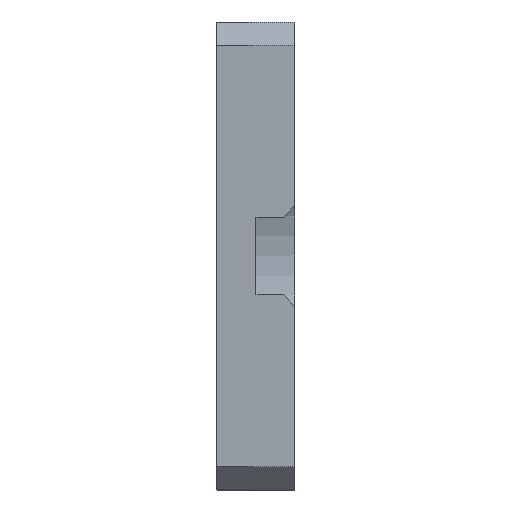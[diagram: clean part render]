
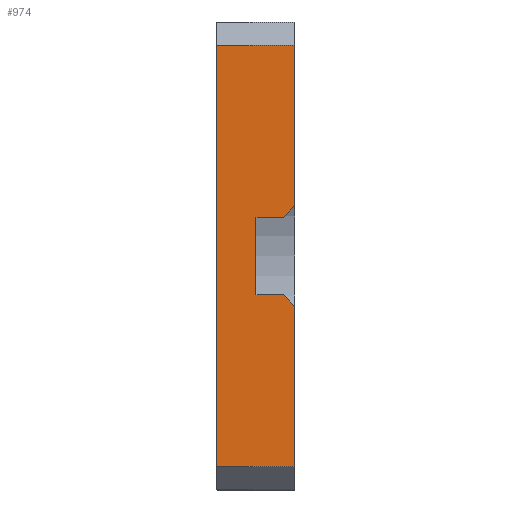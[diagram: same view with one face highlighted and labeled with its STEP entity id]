
A CAD part, left-side view. The second image highlights one B-rep face of the part: STEP entity #974.
In plain terms, the highlighted planar face has unit normal (-1, 0, 0).
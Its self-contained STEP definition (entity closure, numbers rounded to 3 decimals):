
#7 = DIRECTION ( 'NONE',  ( 0., 0.707, 0.707 ) ) ;
#11 = LINE ( 'NONE', #1109, #565 ) ;
#27 = DIRECTION ( 'NONE',  ( 0., 0., 1. ) ) ;
#49 = CARTESIAN_POINT ( 'NONE',  ( -115., 3., 9.9 ) ) ;
#69 = AXIS2_PLACEMENT_3D ( 'NONE', #373, #1762, #1053 ) ;
#75 = VERTEX_POINT ( 'NONE', #467 ) ;
#79 = FACE_OUTER_BOUND ( 'NONE', #1263, .T. ) ;
#82 = CARTESIAN_POINT ( 'NONE',  ( -115., 10., 60. ) ) ;
#88 = LINE ( 'NONE', #1783, #1549 ) ;
#109 = DIRECTION ( 'NONE',  ( 0., -1., 0. ) ) ;
#144 = CARTESIAN_POINT ( 'NONE',  ( -115., 20., 54. ) ) ;
#151 = VECTOR ( 'NONE', #594, 1000. ) ;
#160 = CARTESIAN_POINT ( 'NONE',  ( -115., 20., -9.9 ) ) ;
#161 = ORIENTED_EDGE ( 'NONE', *, *, #706, .T. ) ;
#168 = CARTESIAN_POINT ( 'NONE',  ( -115., 20., -54. ) ) ;
#184 = DIRECTION ( 'NONE',  ( 0., -0.707, 0.707 ) ) ;
#250 = ORIENTED_EDGE ( 'NONE', *, *, #871, .T. ) ;
#270 = CARTESIAN_POINT ( 'NONE',  ( -115., 0., -12.9 ) ) ;
#279 = DIRECTION ( 'NONE',  ( 0., 0., 1. ) ) ;
#290 = DIRECTION ( 'NONE',  ( 0., 1., 0. ) ) ;
#318 = LINE ( 'NONE', #465, #1359 ) ;
#341 = VERTEX_POINT ( 'NONE', #270 ) ;
#346 = DIRECTION ( 'NONE',  ( 0., 0., 1. ) ) ;
#354 = VERTEX_POINT ( 'NONE', #847 ) ;
#373 = CARTESIAN_POINT ( 'NONE',  ( -115., 20., 60. ) ) ;
#397 = ORIENTED_EDGE ( 'NONE', *, *, #551, .F. ) ;
#403 = EDGE_CURVE ( 'NONE', #844, #1302, #318, .T. ) ;
#425 = VERTEX_POINT ( 'NONE', #1574 ) ;
#433 = EDGE_CURVE ( 'NONE', #425, #719, #723, .T. ) ;
#465 = CARTESIAN_POINT ( 'NONE',  ( -115., 3., 9.9 ) ) ;
#467 = CARTESIAN_POINT ( 'NONE',  ( -115., 10., 9.9 ) ) ;
#477 = VERTEX_POINT ( 'NONE', #1226 ) ;
#482 = ORIENTED_EDGE ( 'NONE', *, *, #914, .T. ) ;
#551 = EDGE_CURVE ( 'NONE', #75, #354, #1489, .T. ) ;
#565 = VECTOR ( 'NONE', #279, 1000. ) ;
#571 = LINE ( 'NONE', #1273, #894 ) ;
#575 = LINE ( 'NONE', #160, #1331 ) ;
#594 = DIRECTION ( 'NONE',  ( 0., -1., 0. ) ) ;
#606 = CARTESIAN_POINT ( 'NONE',  ( -115., 3., -9.9 ) ) ;
#620 = VECTOR ( 'NONE', #346, 1000. ) ;
#647 = CARTESIAN_POINT ( 'NONE',  ( -115., 0., 12.9 ) ) ;
#705 = VECTOR ( 'NONE', #27, 1000. ) ;
#706 = EDGE_CURVE ( 'NONE', #1302, #893, #11, .T. ) ;
#719 = VERTEX_POINT ( 'NONE', #144 ) ;
#723 = LINE ( 'NONE', #1293, #705 ) ;
#730 = ORIENTED_EDGE ( 'NONE', *, *, #433, .F. ) ;
#782 = DIRECTION ( 'NONE',  ( 0., 0., -1. ) ) ;
#789 = EDGE_CURVE ( 'NONE', #1205, #354, #575, .T. ) ;
#798 = VECTOR ( 'NONE', #290, 1000. ) ;
#803 = ORIENTED_EDGE ( 'NONE', *, *, #789, .T. ) ;
#844 = VERTEX_POINT ( 'NONE', #49 ) ;
#847 = CARTESIAN_POINT ( 'NONE',  ( -115., 10., -9.9 ) ) ;
#871 = EDGE_CURVE ( 'NONE', #425, #477, #1438, .T. ) ;
#885 = DIRECTION ( 'NONE',  ( 0., 1., 0. ) ) ;
#893 = VERTEX_POINT ( 'NONE', #1462 ) ;
#894 = VECTOR ( 'NONE', #7, 1000. ) ;
#914 = EDGE_CURVE ( 'NONE', #477, #341, #1282, .T. ) ;
#929 = ORIENTED_EDGE ( 'NONE', *, *, #1427, .T. ) ;
#951 = VECTOR ( 'NONE', #782, 1000. ) ;
#974 = ADVANCED_FACE ( 'NONE', ( #79 ), #1325, .F. ) ;
#998 = LINE ( 'NONE', #1825, #798 ) ;
#1053 = DIRECTION ( 'NONE',  ( 0., 0., -1. ) ) ;
#1081 = EDGE_CURVE ( 'NONE', #341, #1205, #571, .T. ) ;
#1109 = CARTESIAN_POINT ( 'NONE',  ( -115., 0., 60. ) ) ;
#1205 = VERTEX_POINT ( 'NONE', #606 ) ;
#1226 = CARTESIAN_POINT ( 'NONE',  ( -115., 0., -54. ) ) ;
#1263 = EDGE_LOOP ( 'NONE', ( #929, #1412, #161, #1819, #730, #250, #482, #1697, #803, #397 ) ) ;
#1273 = CARTESIAN_POINT ( 'NONE',  ( -115., 3., -9.9 ) ) ;
#1282 = LINE ( 'NONE', #1708, #620 ) ;
#1293 = CARTESIAN_POINT ( 'NONE',  ( -115., 20., 60. ) ) ;
#1302 = VERTEX_POINT ( 'NONE', #647 ) ;
#1325 = PLANE ( 'NONE',  #69 ) ;
#1331 = VECTOR ( 'NONE', #885, 1000. ) ;
#1359 = VECTOR ( 'NONE', #184, 1000. ) ;
#1412 = ORIENTED_EDGE ( 'NONE', *, *, #403, .T. ) ;
#1427 = EDGE_CURVE ( 'NONE', #75, #844, #88, .T. ) ;
#1438 = LINE ( 'NONE', #168, #151 ) ;
#1462 = CARTESIAN_POINT ( 'NONE',  ( -115., 0., 54. ) ) ;
#1489 = LINE ( 'NONE', #82, #951 ) ;
#1506 = EDGE_CURVE ( 'NONE', #893, #719, #998, .T. ) ;
#1549 = VECTOR ( 'NONE', #109, 1000. ) ;
#1574 = CARTESIAN_POINT ( 'NONE',  ( -115., 20., -54. ) ) ;
#1697 = ORIENTED_EDGE ( 'NONE', *, *, #1081, .T. ) ;
#1708 = CARTESIAN_POINT ( 'NONE',  ( -115., 0., 60. ) ) ;
#1762 = DIRECTION ( 'NONE',  ( 1., 0., 0. ) ) ;
#1783 = CARTESIAN_POINT ( 'NONE',  ( -115., 20., 9.9 ) ) ;
#1819 = ORIENTED_EDGE ( 'NONE', *, *, #1506, .T. ) ;
#1825 = CARTESIAN_POINT ( 'NONE',  ( -115., 20., 54. ) ) ;
